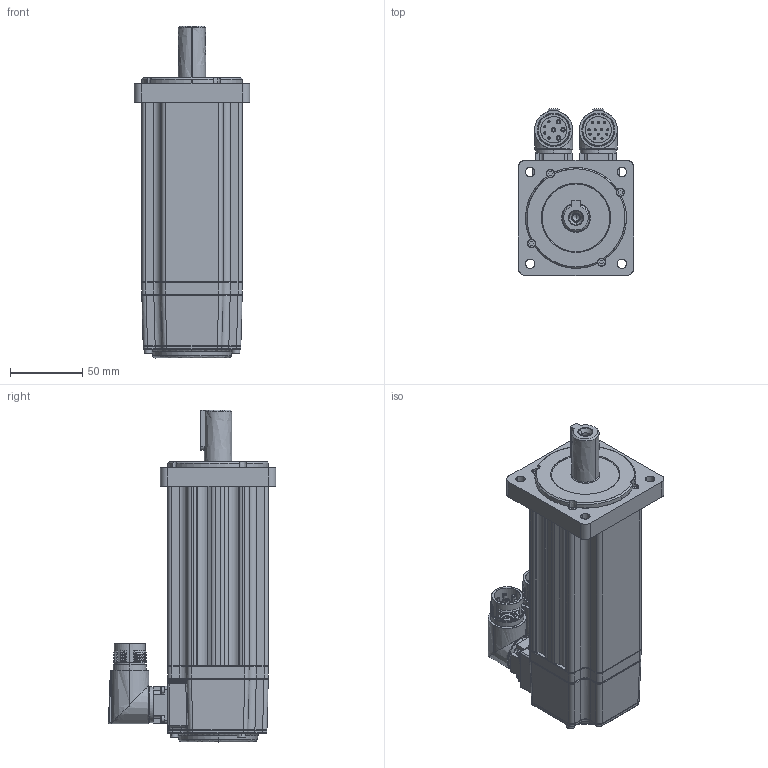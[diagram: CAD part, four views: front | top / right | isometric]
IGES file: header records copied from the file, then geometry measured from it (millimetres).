
Start section: SolidWorks IGES file using analytic representation for surfaces
Global section: file name: C:\Users\BS-Eugene\Desktop\BSM-03-3000-L-90.IGS; native system: SolidWorks 2019; preprocessor: SolidWorks 2019; author: BS-Eugene; date: 260918.135748; units: millimetre
Bounding box: 80 x 116.2 x 230.4 mm (x, y, z)
Surface area: 154254.3 mm2 (no closed solid volume)
Topology: 0 solids, 0 shells, 1725 faces, 20247 edges, 20168 vertices
Faces by surface type: bspline 867, revolution 858
